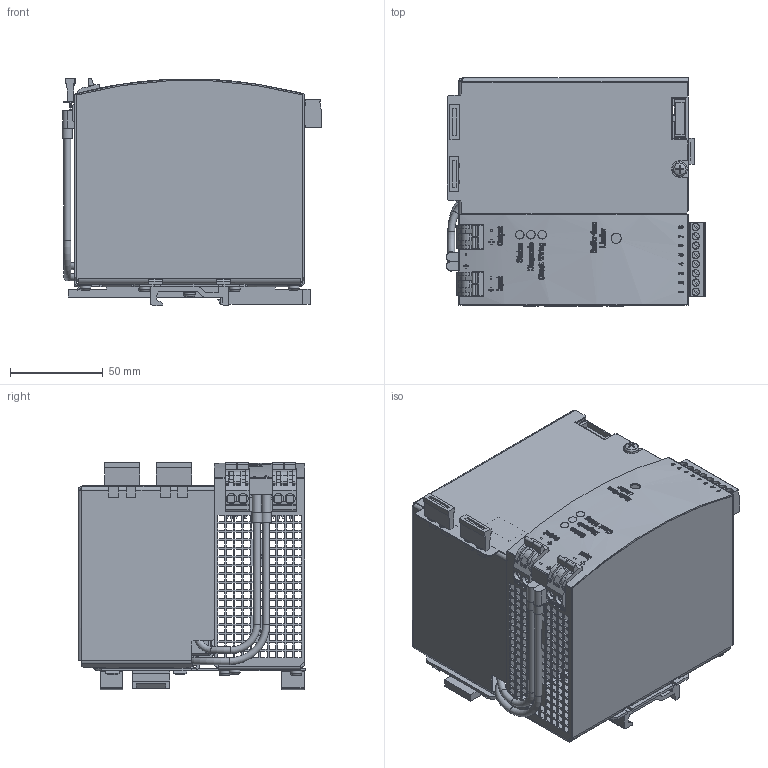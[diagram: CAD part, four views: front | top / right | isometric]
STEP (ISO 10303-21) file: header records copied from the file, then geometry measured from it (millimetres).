
FILE_DESCRIPTION((''),'2;1');
FILE_NAME('C:\Dokumente und Einstellungen\raabk\Eigene Dateien\tmp\357.05.stp','2008-08-26T12:32:01',('raabk'),(''),'Autodesk Inventor 11','Autodesk Inventor 11','');
FILE_SCHEMA(('AUTOMOTIVE_DESIGN { 1 0 10303 214 1 1 1 1 }'));
Length unit declared in the file: millimetre
Products named in the file (21): 357.05; BATTERY HOUSING 357.05; BATTERY 357; BATTERY BRACKET 357.05; SCREW 4x8; FUSE HOLDER 357.05; WIRE RED 359.05; WIRE BLACK 359.05; FRONT LABEL FUSEHOLDER 357.05; FUSE 357.05; HOUSING BODY 357.05; T-HOLDER_SL; SCREW 3x6; SLIDER SL; HOUSING COVER 357.05; TERMINAL 2P R6,35; CONNECTOR 8P R5 MALE; CONNECTOR 8P R5 FEMALE; LED GN; LED RD; LED YE
Assembly tree (30 placements, depth 2):
  357.05
    BATTERY HOUSING 357.05
    BATTERY 357
    BATTERY BRACKET 357.05
    SCREW 4x8
    FUSE HOLDER 357.05
    WIRE RED 359.05
    WIRE BLACK 359.05
    FRONT LABEL FUSEHOLDER 357.05
    FUSE 357.05  x2
    HOUSING BODY 357.05
    T-HOLDER_SL  x2
    SCREW 3x6  x8
    SLIDER SL
    HOUSING COVER 357.05
    TERMINAL 2P R6,35  x2
    CONNECTOR 8P R5 MALE
    CONNECTOR 8P R5 FEMALE
    LED GN
    LED RD
    LED YE
Bounding box: 140.15 x 123 x 123.05 mm (x, y, z)
Volume: 799415.1 mm3; surface area: 270524.5 mm2
Topology: 31 solids, 31 shells, 4240 faces, 11486 edges, 7516 vertices
Faces by surface type: plane 3274, bspline 493, cylinder 413, cone 29, torus 22, sphere 9
Full cylindrical faces by diameter (mm): 0.434 x1, 1.4 x16, 2.65 x2, 2.8 x14, 3 x11, 3.3 x4, 3.5 x2, 3.621 x1, 3.7 x6, 3.783 x8, 4 x9, 4.5 x3, 4.6 x3, 5 x1, 5.4 x4, 5.5 x13, 6 x8
Entity records: 262562 total; most frequent: CARTESIAN_POINT 164244, ORIENTED_EDGE 21376, DIRECTION 17213, EDGE_CURVE 10688, VECTOR 8315, LINE 8315, VERTEX_POINT 7057, EDGE_LOOP 4995
